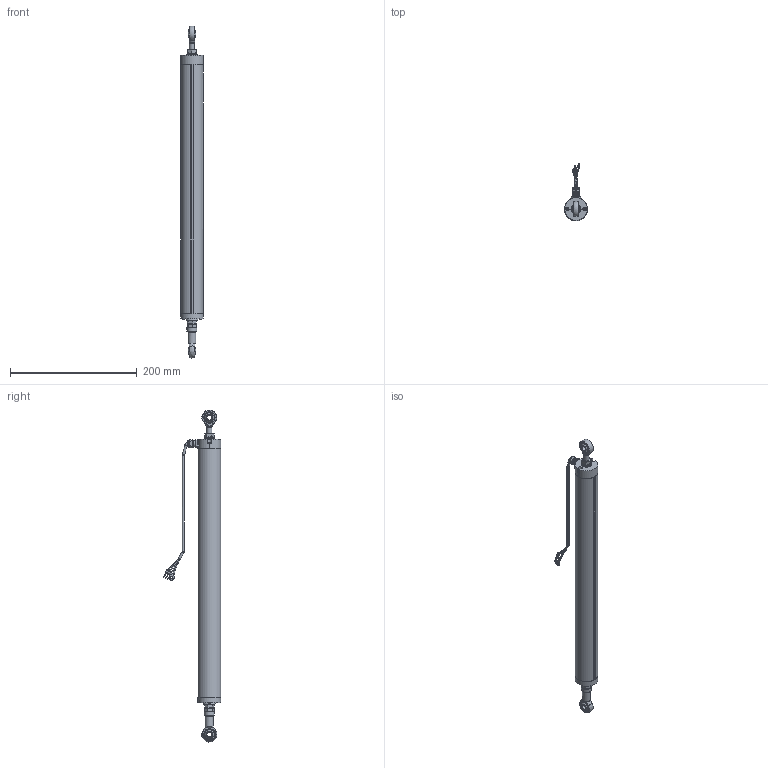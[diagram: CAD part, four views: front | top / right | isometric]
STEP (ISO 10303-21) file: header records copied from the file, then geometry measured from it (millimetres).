
FILE_DESCRIPTION(/* description */ (''),/* implementation_level */ '2;1');
FILE_NAME(/* name */ 'C:\Users\Justin\Documents\CAD\The Sensor Connection\LPPS\LPPS-36B Series\3D\LPPS 36B-325\LPPS-36B-325 Assembly.stp',/* time_stamp */ '2020-09-11T11:09:25-04:00',/* author */ ('Justin'),/* organization */ (''),/* preprocessor_version */ 'ST-DEVELOPER v18.1',/* originating_system */ 'Autodesk Inventor 2021',/* authorisation */ '');
FILE_SCHEMA (('AUTOMOTIVE_DESIGN { 1 0 10303 214 3 1 1 }'));
Length unit declared in the file: inch
Products named in the file (3): LPPS-36B-325 Assembly; LPPS 36B-325_Shrinkwrap; LPPS 36B-325_Shrinkwrap_1
Assembly tree (2 placements, depth 2):
  LPPS-36B-325 Assembly
    LPPS 36B-325_Shrinkwrap
    LPPS 36B-325_Shrinkwrap_1
Bounding box: 36.05 x 90.87 x 524.86 mm (x, y, z)
Volume: 161268.6 mm3; surface area: 131976.3 mm2
Topology: 27 solids, 27 shells, 1058 faces, 2601 edges, 1671 vertices
Faces by surface type: plane 468, cylinder 257, bspline 195, torus 73, cone 60, sphere 5
Full cylindrical faces by diameter (mm): 1.236 x3, 2.5 x2, 3 x6, 3.175 x3, 3.5 x5, 3.708 x1, 5 x3, 5.5 x1, 6 x2, 6.647 x1, 7 x3, 8 x11, 8.1 x1, 8.4 x1, 9 x1, 10 x1, 11 x1, 12.5 x1, 15 x4, 15.8 x1, 16 x1, 18.5 x3, 36 x1
Entity records: 37582 total; most frequent: CARTESIAN_POINT 12099, ORIENTED_EDGE 5202, DIRECTION 4715, EDGE_CURVE 2601, AXIS2_PLACEMENT_3D 1782, VERTEX_POINT 1671, EDGE_LOOP 1175, LINE 1151
